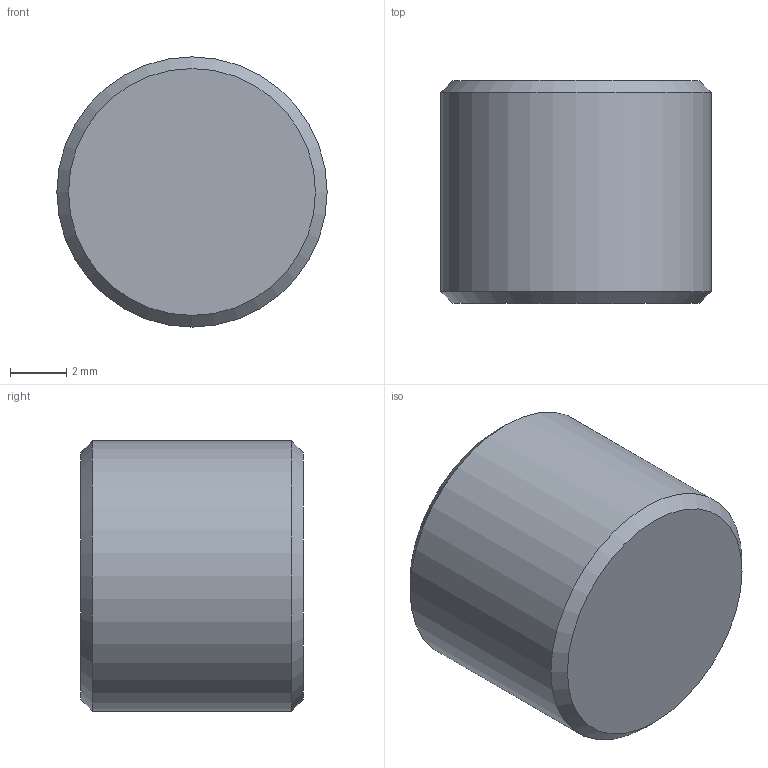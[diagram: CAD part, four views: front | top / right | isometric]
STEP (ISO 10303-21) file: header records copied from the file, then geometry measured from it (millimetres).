
FILE_DESCRIPTION(/* description */ (''),/* implementation_level */ '2;1');
FILE_NAME(/* name */ 'C:/Users/drich/Desktop/cad/Plugs/NPT Pipe Plugs/Dry Seal 3_4 Taper/Stainless Steel/SSD-18 v1.step',/* time_stamp */ '2020-01-10T11:34:27-06:00',/* author */ (''),/* organization */ (''),/* preprocessor_version */ 'ST-DEVELOPER v18',/* originating_system */ 'Autodesk Translation Framework v8.12.0.6',/* authorisation */ '');
FILE_SCHEMA (('AUTOMOTIVE_DESIGN { 1 0 10303 214 3 1 1 }'));
Length unit declared in the file: inch
Products named in the file (1): SSD-18
Bounding box: 9.62 x 7.92 x 9.62 mm (x, y, z)
Volume: 492.9 mm3; surface area: 432.3 mm2
Topology: 1 solids, 1 shells, 13 faces, 35 edges, 25 vertices
Faces by surface type: plane 9, cone 3, cylinder 1
Full cylindrical faces by diameter (mm): 9.621 x1
Entity records: 439 total; most frequent: CARTESIAN_POINT 98, ORIENTED_EDGE 70, DIRECTION 58, EDGE_CURVE 35, VERTEX_POINT 25, AXIS2_PLACEMENT_3D 21, LINE 16, VECTOR 16
